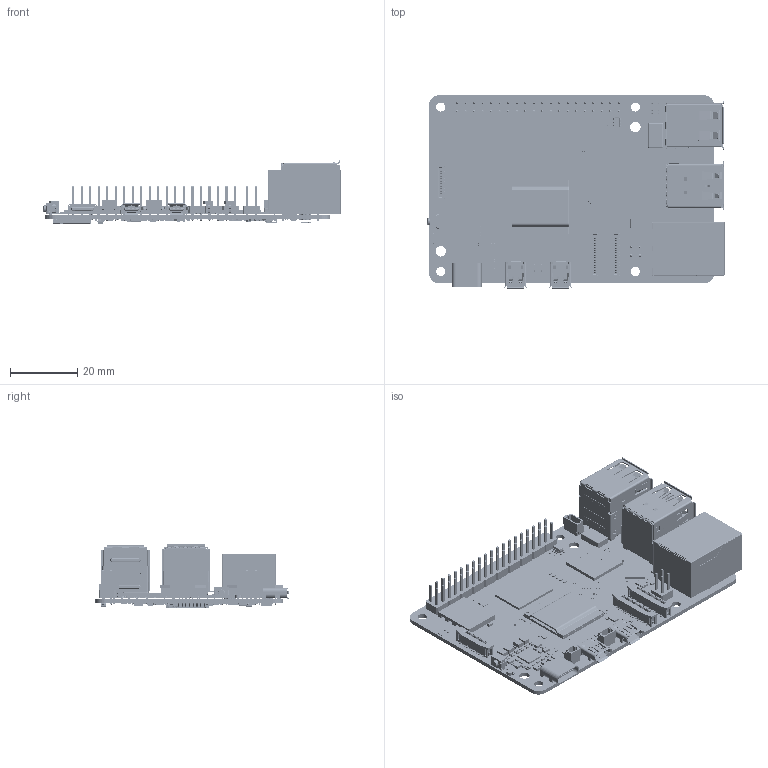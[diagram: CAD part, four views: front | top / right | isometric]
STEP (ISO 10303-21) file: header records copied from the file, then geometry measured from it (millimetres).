
FILE_DESCRIPTION(('FreeCAD Model'),'2;1');
FILE_NAME('Open CASCADE Shape Model','2026-05-27T13:27:50',(''),(''), 'Open CASCADE STEP processor 7.8','FreeCAD','Unknown');
FILE_SCHEMA(('AUTOMOTIVE_DESIGN { 1 0 10303 214 1 1 1 1 }'));
Length unit declared in the file: millimetre
Products named in the file (4287): OBJ0; OBJ1; OBJ3; OBJ5; OBJ7; OBJ9; OBJ11; OBJ13; OBJ15; OBJ17; OBJ19; OBJ21; OBJ23; OBJ25; OBJ27; OBJ29; OBJ31; OBJ33; OBJ35; OBJ37; OBJ39; OBJ41; OBJ43; OBJ45; OBJ47; OBJ49; OBJ51; OBJ53; OBJ55; OBJ57; OBJ59; OBJ61; OBJ63; OBJ65; OBJ67; OBJ69; OBJ71; OBJ73; OBJ75; OBJ77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
Assembly tree (4286 placements, depth 9):
  OBJ0
    OBJ1
      OBJ3
        OBJ5
          OBJ7
            OBJ9
              OBJ11
              OBJ13
              OBJ15
                OBJ17
                OBJ19
                OBJ21
                OBJ23
                OBJ25
                OBJ27
                OBJ29
                OBJ31
                OBJ33
                OBJ35
                OBJ37
                OBJ39
                OBJ41
                OBJ43
                OBJ45
                OBJ47
                OBJ49
                OBJ51
                OBJ53
                OBJ55
                OBJ57
                OBJ59
                OBJ61
                OBJ63
                OBJ65
                OBJ67
                OBJ69
                OBJ71
                OBJ73
                OBJ75
                OBJ77
                OBJ79
                OBJ81
                OBJ83
                OBJ85
                OBJ87
                OBJ89
                OBJ91
                OBJ93
                OBJ95
                OBJ97
                OBJ99
                OBJ101
                OBJ103
                OBJ105
                OBJ107
                OBJ109
                OBJ111
                OBJ113
                OBJ115
                OBJ117
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Bounding box: 88.5 x 57.63 x 18.98 mm (x, y, z)
Volume: 15324.5 mm3; surface area: 40126.4 mm2
Topology: 2689 solids, 2711 shells, 45689 faces, 117511 edges, 68242 vertices
Faces by surface type: plane 26887, cylinder 11997, sphere 6068, bspline 333, extrusion 270, torus 69, revolution 47, cone 18
Entity records: 1466409 total; most frequent: CARTESIAN_POINT 265771, DIRECTION 226385, ORIENTED_EDGE 215774, EDGE_CURVE 109039, VECTOR 79642, LINE 79372, AXIS2_PLACEMENT_3D 73348, VERTEX_POINT 68242
